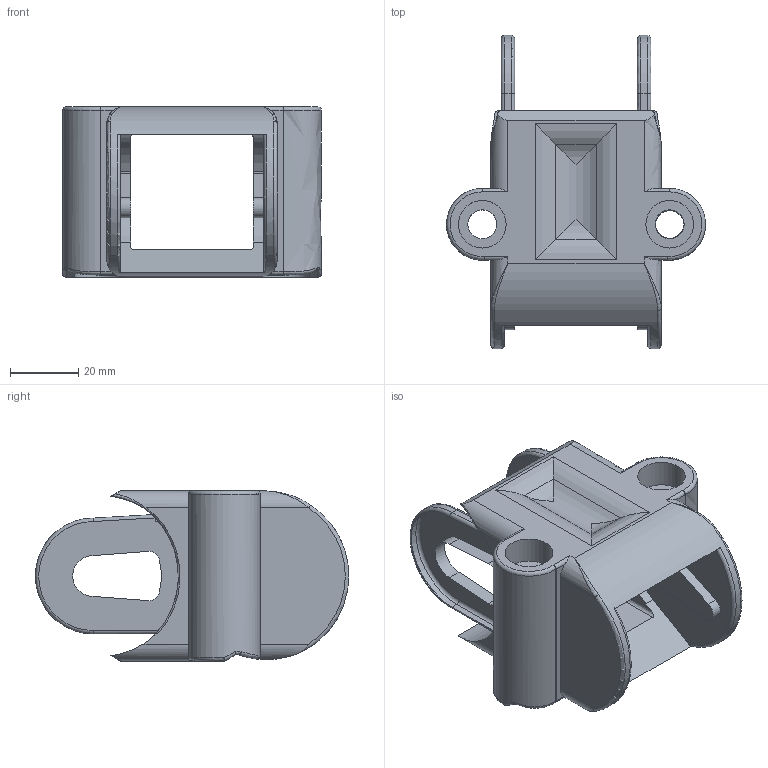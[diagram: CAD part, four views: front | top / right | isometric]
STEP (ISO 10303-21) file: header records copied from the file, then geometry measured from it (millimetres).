
FILE_DESCRIPTION((''),'2;1');
FILE_NAME('C:\Uebbing\PARAMETERKETTEN\PFR\PFR 221\PFR 221 Kunststoffanschluß.stp','2012-03-30T08:16:51',('Uebbing'),(''),'Autodesk Inventor 10','Autodesk Inventor 10','');
FILE_SCHEMA(('AUTOMOTIVE_DESIGN { 1 0 10303 214 1 1 1 1 }'));
Length unit declared in the file: millimetre
Products named in the file (1): PFR 221 Kunststoffanschluß
Bounding box: 76 x 92 x 50 mm (x, y, z)
Volume: 70567.6 mm3; surface area: 30822.2 mm2
Topology: 1 solids, 1 shells, 158 faces, 433 edges, 277 vertices
Faces by surface type: bspline 76, cylinder 43, plane 31, torus 8
Full cylindrical faces by diameter (mm): 3.5 x1, 8.5 x1, 14 x2
Entity records: 8000 total; most frequent: CARTESIAN_POINT 4352, ORIENTED_EDGE 828, DIRECTION 642, EDGE_CURVE 414, VERTEX_POINT 270, AXIS2_PLACEMENT_3D 231, EDGE_LOOP 184, VECTOR 180
